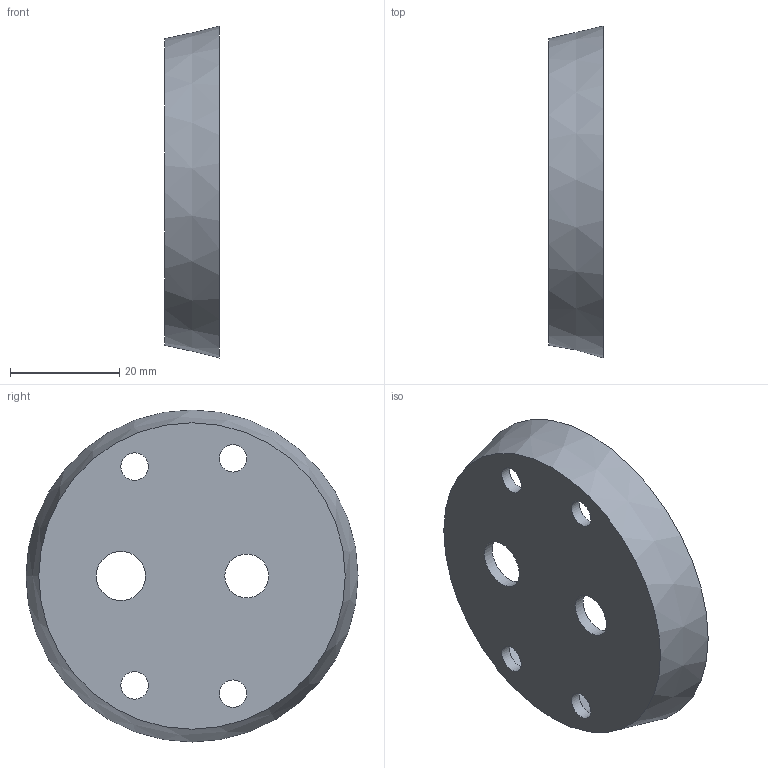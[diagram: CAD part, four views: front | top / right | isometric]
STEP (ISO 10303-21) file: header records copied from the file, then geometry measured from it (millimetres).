
FILE_DESCRIPTION(('Open CASCADE Model'),'2;1');
FILE_NAME('Open CASCADE Shape Model','2026-10-25T05:18:01',('Author'),( 'Open CASCADE'),'Open CASCADE STEP processor 7.9','Open CASCADE 7.9' ,'Unknown');
FILE_SCHEMA(('AUTOMOTIVE_DESIGN { 1 0 10303 214 1 1 1 1 }'));
Length unit declared in the file: millimetre
Products named in the file (1): Open CASCADE STEP translator 7.9 1
Bounding box: 10 x 60.67 x 60.67 mm (x, y, z)
Volume: 8161.2 mm3; surface area: 8156 mm2
Topology: 1 solids, 1 shells, 11 faces, 24 edges, 16 vertices
Faces by surface type: cylinder 6, plane 3, cone 2
Full cylindrical faces by diameter (mm): 5 x4, 8 x1, 9 x1
Entity records: 660 total; most frequent: DIRECTION 112, CARTESIAN_POINT 100, ORIENTED_EDGE 48, PCURVE 48, DEFINITIONAL_REPRESENTATION 48, LINE 40, VECTOR 40, CIRCLE 32
